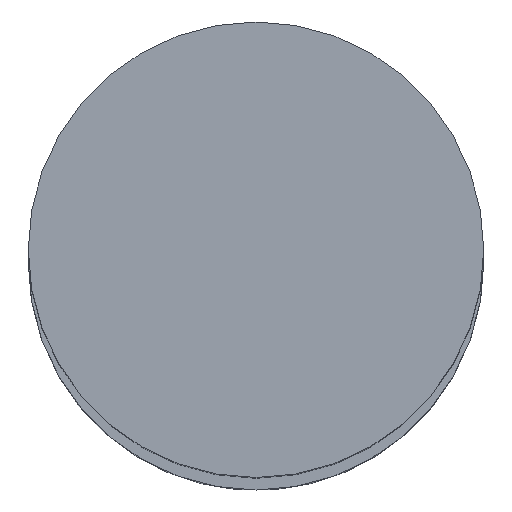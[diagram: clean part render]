
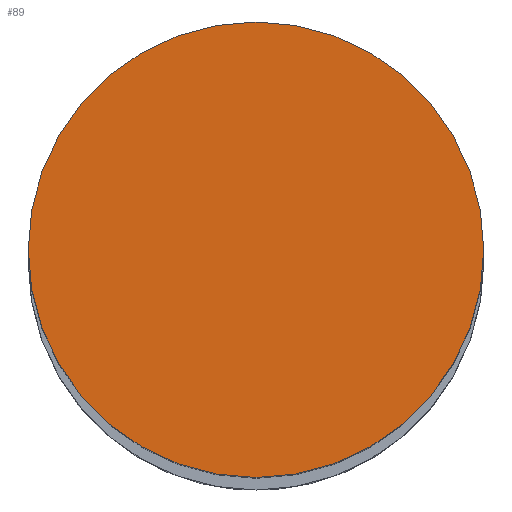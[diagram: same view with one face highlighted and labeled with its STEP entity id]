
A CAD part, top view. The second image highlights one B-rep face of the part: STEP entity #89.
In plain terms, the highlighted planar face has unit normal (0, 0, 1).
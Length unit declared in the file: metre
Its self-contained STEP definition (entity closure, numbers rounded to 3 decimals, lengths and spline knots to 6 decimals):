
#89=ADVANCED_FACE('0:129',(#177),#178,.T.);
#177=FACE_OUTER_BOUND('',#269,.T.);
#178=PLANE('',#270);
#269=EDGE_LOOP('',(#430,#431));
#270=AXIS2_PLACEMENT_3D('',#432,#433,#434);
#430=ORIENTED_EDGE('',*,*,#503,.F.);
#431=ORIENTED_EDGE('',*,*,#549,.F.);
#432=CARTESIAN_POINT('',(0.,0.,0.179));
#433=DIRECTION('',(0.0,0.0,1.0));
#434=DIRECTION('',(1.0,0.0,0.0));
#503=EDGE_CURVE('13:581',#587,#583,#589,.F.);
#549=EDGE_CURVE('',#583,#587,#656,.F.);
#583=VERTEX_POINT('',#707);
#587=VERTEX_POINT('',#712);
#589=CIRCLE('',#715,0.008);
#656=CIRCLE('',#796,0.008);
#707=CARTESIAN_POINT('',(0.00789,0.000133,0.179));
#712=CARTESIAN_POINT('',(-0.00811,0.000133,0.179));
#715=AXIS2_PLACEMENT_3D('',#856,#857,#858);
#796=AXIS2_PLACEMENT_3D('',#924,#925,#926);
#856=CARTESIAN_POINT('',(-0.00011,0.000133,0.179));
#857=DIRECTION('',(0.0,0.0,1.0));
#858=DIRECTION('',(1.0,0.0,0.0));
#924=CARTESIAN_POINT('',(-0.00011,0.000133,0.179));
#925=DIRECTION('',(0.0,0.0,1.0));
#926=DIRECTION('',(1.0,0.0,0.0));
